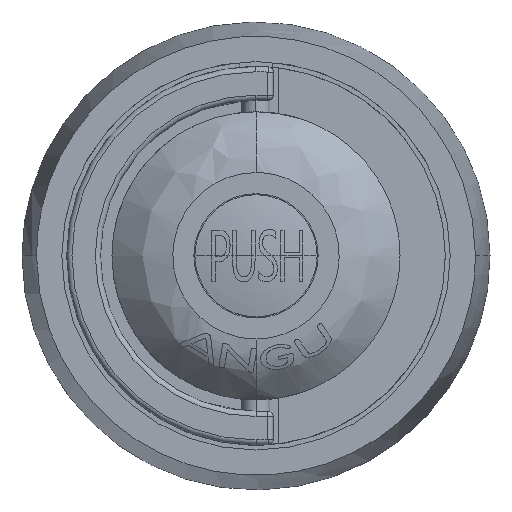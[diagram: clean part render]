
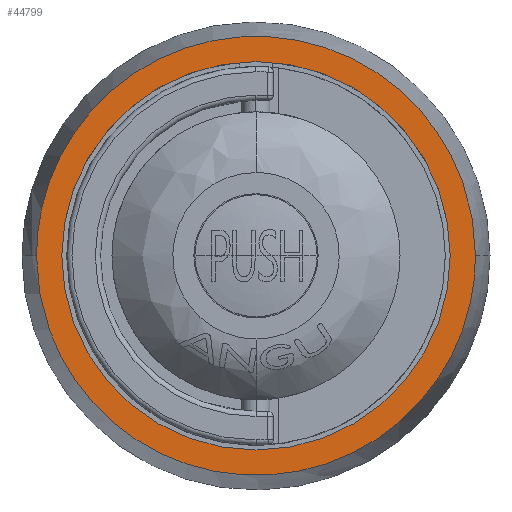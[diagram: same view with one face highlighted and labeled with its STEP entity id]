
A CAD part, top view. The second image highlights one B-rep face of the part: STEP entity #44799.
In plain terms, the highlighted planar face has unit normal (0, 0, 1).
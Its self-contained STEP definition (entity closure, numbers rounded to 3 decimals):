
#283 = CARTESIAN_POINT ( 'NONE',  ( 0., 0., 9.25 ) ) ;
#2316 = CARTESIAN_POINT ( 'NONE',  ( -21.1, -2.798, 9.25 ) ) ;
#2848 = CARTESIAN_POINT ( 'NONE',  ( -20.565, 5.49, 9.25 ) ) ;
#3214 = CARTESIAN_POINT ( 'NONE',  ( -21.1, 2.798, 9.25 ) ) ;
#3584 = CARTESIAN_POINT ( 'NONE',  ( 20.564, 5.49, 9.25 ) ) ;
#4002 = EDGE_LOOP ( 'NONE', ( #19516, #69054 ) ) ;
#4582 = CARTESIAN_POINT ( 'NONE',  ( 0., 0., 9.25 ) ) ;
#6925 = VERTEX_POINT ( 'NONE', #16341 ) ;
#7895 = CARTESIAN_POINT ( 'NONE',  ( 16.898, -12.942, 9.25 ) ) ;
#8804 = CARTESIAN_POINT ( 'NONE',  ( 18.423, 10.659, 9.25 ) ) ;
#9272 = CARTESIAN_POINT ( 'NONE',  ( -16.898, -12.942, 9.25 ) ) ;
#9432 = DIRECTION ( 'NONE',  ( 0., 0., 1. ) ) ;
#11475 = PLANE ( 'NONE',  #39755 ) ;
#14766 = CARTESIAN_POINT ( 'NONE',  ( 10.659, 18.423, 9.25 ) ) ;
#15022 = DIRECTION ( 'NONE',  ( 1., 0., 0. ) ) ;
#16341 = CARTESIAN_POINT ( 'NONE',  ( -21.1, 0., 9.25 ) ) ;
#17458 = CIRCLE ( 'NONE', #34103, 18.675 ) ;
#19078 = CARTESIAN_POINT ( 'NONE',  ( -5.49, -20.565, 9.25 ) ) ;
#19516 = ORIENTED_EDGE ( 'NONE', *, *, #45236, .F. ) ;
#19617 = CARTESIAN_POINT ( 'NONE',  ( -18.423, 10.659, 9.25 ) ) ;
#20345 = CARTESIAN_POINT ( 'NONE',  ( 21.1, 2.798, 9.25 ) ) ;
#20827 = CARTESIAN_POINT ( 'NONE',  ( 5.49, -20.564, 9.25 ) ) ;
#20992 = VERTEX_POINT ( 'NONE', #63053 ) ;
#21551 = CARTESIAN_POINT ( 'NONE',  ( 21.1, 0., 9.25 ) ) ;
#24906 = B_SPLINE_CURVE_WITH_KNOTS ( 'NONE', 3,
 ( #70146, #2316, #60325, #27109, #9272, #49120, #53339, #19078, #71861, #41767, #20827, #37917, #64536, #7895, #66288, #49837, #31987, #21551 ),
 .UNSPECIFIED., .F., .F.,
 ( 4, 2, 2, 2, 2, 2, 2, 2, 4 ),
 ( 0.5, 0.563, 0.625, 0.688, 0.75, 0.813, 0.875, 0.938, 1. ),
 .UNSPECIFIED. ) ;
#25937 = B_SPLINE_CURVE_WITH_KNOTS ( 'NONE', 3,
 ( #31133, #20345, #3584, #8804, #54979, #43410, #14766, #54238, #65434, #71032, #26282, #31502, #30760, #53880, #19617, #2848, #3214, #65068 ),
 .UNSPECIFIED., .F., .F.,
 ( 4, 2, 2, 2, 2, 2, 2, 2, 4 ),
 ( 0., 0.063, 0.125, 0.188, 0.25, 0.313, 0.375, 0.438, 0.5 ),
 .UNSPECIFIED. ) ;
#26282 = CARTESIAN_POINT ( 'NONE',  ( -5.49, 20.564, 9.25 ) ) ;
#27109 = CARTESIAN_POINT ( 'NONE',  ( -18.423, -10.659, 9.25 ) ) ;
#29293 = FACE_BOUND ( 'NONE', #4002, .T. ) ;
#29580 = VERTEX_POINT ( 'NONE', #43826 ) ;
#29636 = EDGE_CURVE ( 'NONE', #29580, #20992, #73431, .T. ) ;
#30760 = CARTESIAN_POINT ( 'NONE',  ( -12.942, 16.898, 9.25 ) ) ;
#31133 = CARTESIAN_POINT ( 'NONE',  ( 21.1, 0., 9.25 ) ) ;
#31502 = CARTESIAN_POINT ( 'NONE',  ( -10.659, 18.423, 9.25 ) ) ;
#31987 = CARTESIAN_POINT ( 'NONE',  ( 21.1, -2.798, 9.25 ) ) ;
#33762 = DIRECTION ( 'NONE',  ( 1., 0., 0. ) ) ;
#34103 = AXIS2_PLACEMENT_3D ( 'NONE', #4582, #9432, #15022 ) ;
#37917 = CARTESIAN_POINT ( 'NONE',  ( 10.659, -18.423, 9.25 ) ) ;
#38862 = AXIS2_PLACEMENT_3D ( 'NONE', #67323, #73634, #33762 ) ;
#39755 = AXIS2_PLACEMENT_3D ( 'NONE', #283, #63969, #68486 ) ;
#41767 = CARTESIAN_POINT ( 'NONE',  ( 2.798, -21.1, 9.25 ) ) ;
#42581 = CARTESIAN_POINT ( 'NONE',  ( 21.1, 0., 9.25 ) ) ;
#43300 = VERTEX_POINT ( 'NONE', #42581 ) ;
#43410 = CARTESIAN_POINT ( 'NONE',  ( 12.942, 16.898, 9.25 ) ) ;
#43826 = CARTESIAN_POINT ( 'NONE',  ( -18.675, 0., 9.25 ) ) ;
#44799 = ADVANCED_FACE ( 'NONE', ( #29293, #57265 ), #11475, .T. ) ;
#45236 = EDGE_CURVE ( 'NONE', #20992, #29580, #17458, .T. ) ;
#46413 = ORIENTED_EDGE ( 'NONE', *, *, #58562, .T. ) ;
#47427 = EDGE_CURVE ( 'NONE', #43300, #6925, #25937, .T. ) ;
#49120 = CARTESIAN_POINT ( 'NONE',  ( -12.942, -16.898, 9.25 ) ) ;
#49837 = CARTESIAN_POINT ( 'NONE',  ( 20.565, -5.49, 9.25 ) ) ;
#53339 = CARTESIAN_POINT ( 'NONE',  ( -10.659, -18.423, 9.25 ) ) ;
#53880 = CARTESIAN_POINT ( 'NONE',  ( -16.898, 12.942, 9.25 ) ) ;
#54238 = CARTESIAN_POINT ( 'NONE',  ( 5.49, 20.565, 9.25 ) ) ;
#54979 = CARTESIAN_POINT ( 'NONE',  ( 16.898, 12.942, 9.25 ) ) ;
#57265 = FACE_OUTER_BOUND ( 'NONE', #61694, .T. ) ;
#58562 = EDGE_CURVE ( 'NONE', #6925, #43300, #24906, .T. ) ;
#60325 = CARTESIAN_POINT ( 'NONE',  ( -20.564, -5.49, 9.25 ) ) ;
#61694 = EDGE_LOOP ( 'NONE', ( #62000, #46413 ) ) ;
#62000 = ORIENTED_EDGE ( 'NONE', *, *, #47427, .T. ) ;
#63053 = CARTESIAN_POINT ( 'NONE',  ( 18.675, 0., 9.25 ) ) ;
#63969 = DIRECTION ( 'NONE',  ( 0., 0., 1. ) ) ;
#64536 = CARTESIAN_POINT ( 'NONE',  ( 12.942, -16.898, 9.25 ) ) ;
#65068 = CARTESIAN_POINT ( 'NONE',  ( -21.1, 0., 9.25 ) ) ;
#65434 = CARTESIAN_POINT ( 'NONE',  ( 2.798, 21.1, 9.25 ) ) ;
#66288 = CARTESIAN_POINT ( 'NONE',  ( 18.423, -10.659, 9.25 ) ) ;
#67323 = CARTESIAN_POINT ( 'NONE',  ( 0., 0., 9.25 ) ) ;
#68486 = DIRECTION ( 'NONE',  ( 1., 0., 0. ) ) ;
#69054 = ORIENTED_EDGE ( 'NONE', *, *, #29636, .F. ) ;
#70146 = CARTESIAN_POINT ( 'NONE',  ( -21.1, 0., 9.25 ) ) ;
#71032 = CARTESIAN_POINT ( 'NONE',  ( -2.798, 21.1, 9.25 ) ) ;
#71861 = CARTESIAN_POINT ( 'NONE',  ( -2.798, -21.1, 9.25 ) ) ;
#73431 = CIRCLE ( 'NONE', #38862, 18.675 ) ;
#73634 = DIRECTION ( 'NONE',  ( 0., 0., 1. ) ) ;
